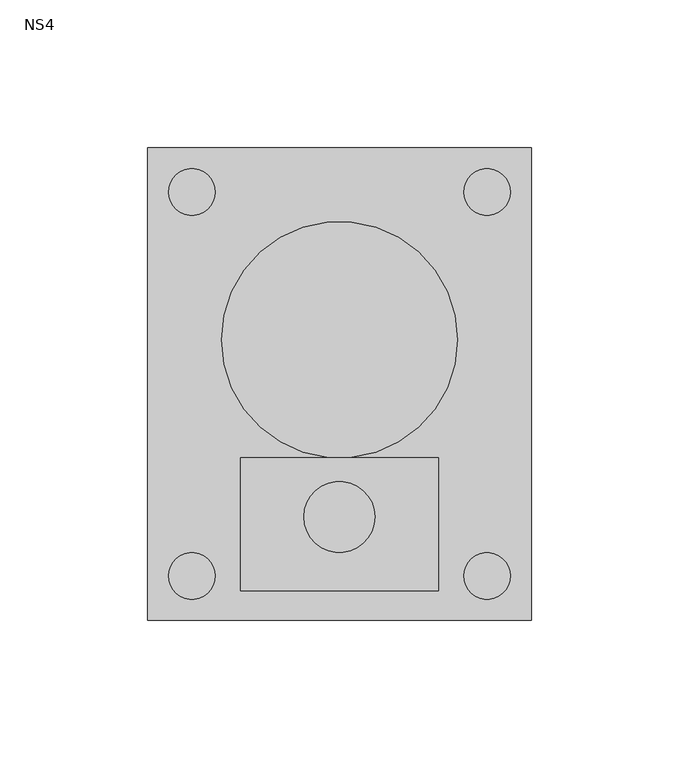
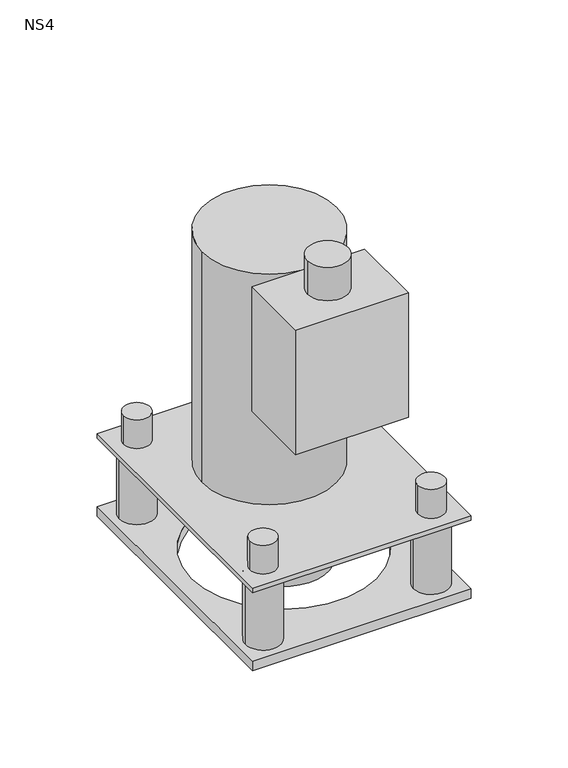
"""IFC4 building model written with IfcOpenShell, lengths in millimetres: unitary equipment geometry, ME_ST_lipator s-rm with agitating device_ACO : NS4."""

import ifcopenshell
import ifcopenshell.guid

model = None  # the IFC model being written
_history = None  # IfcOwnerHistory: only IFC2X3 demands one
_inside = {}  # id of a spatial element -> (the spatial element, [elements in it])
_under = {}  # id of a project, library or spatial element -> (it, [spatial elements below it])
_declared = {}  # id of a project -> (the project, [libraries it declares])
_typed = {}  # id of a type object -> (the type object, [elements of that type])
_made_of = {}  # id of a material, layer set ... -> (it, [elements and type objects made of it])


def new_model(schema):
    """Start an empty IFC model of exactly this schema.

    Asked for "IFC4X3", IfcOpenShell would pick the latest addendum, in which some entities
    have other attributes; the version numbers below select the first issue.
    IFC2X3 requires an IfcOwnerHistory on every rooted entity: one is made here for all.
    """
    global model, _history
    if schema == "IFC4X3":
        model = ifcopenshell.file(schema_version=(4, 3, 0, 0))
    else:
        model = ifcopenshell.file(schema=schema)
    _inside.clear()
    _under.clear()
    _declared.clear()
    _typed.clear()
    _made_of.clear()
    _history = None
    if model.schema == "IFC2X3":
        org = make("IfcOrganization", Name="unknown")
        user = make(
            "IfcPersonAndOrganization",
            ThePerson=make("IfcPerson", FamilyName="unknown"),
            TheOrganization=org,
        )
        app = make(
            "IfcApplication",
            ApplicationDeveloper=org,
            Version="unknown",
            ApplicationFullName="unknown",
            ApplicationIdentifier="unknown",
        )
        _history = make(
            "IfcOwnerHistory",
            OwningUser=user,
            OwningApplication=app,
            ChangeAction="ADDED",
            CreationDate=0,
        )
    return model


def make(cls, **values):
    """One entity of the class cls with the attributes given. An attribute that is None is left unset."""
    return model.create_entity(
        cls, **{name: value for name, value in values.items() if value is not None}
    )


def rooted(cls, **values):
    """An entity with a GlobalId (a new one), such as an element, a storey or a relation."""
    return make(cls, GlobalId=ifcopenshell.guid.new(), OwnerHistory=_history, **values)


def si_unit(unit_type, name, prefix=None):
    """IfcSIUnit, for example si_unit("LENGTHUNIT", "METRE", prefix="MILLI")."""
    return make("IfcSIUnit", UnitType=unit_type, Prefix=prefix, Name=name)


def assignment(units):
    """IfcUnitAssignment: the units of a project."""
    return None if units is None else make("IfcUnitAssignment", Units=units)


def point(xyz):
    """IfcCartesianPoint."""
    return None if xyz is None else make("IfcCartesianPoint", Coordinates=xyz)


def direction(xyz):
    """IfcDirection."""
    return None if xyz is None else make("IfcDirection", DirectionRatios=xyz)


def frame(location, z_axis=None, x_axis=None):
    """IfcAxis2Placement3D, a coordinate frame: its origin and axes. An axis left out is left unset."""
    return make(
        "IfcAxis2Placement3D",
        Location=point(location),
        Axis=direction(z_axis),
        RefDirection=direction(x_axis),
    )


def frame_2d(location, x_axis=None):
    """IfcAxis2Placement2D, a coordinate frame in the plane: its origin and x axis."""
    return make(
        "IfcAxis2Placement2D", Location=point(location), RefDirection=direction(x_axis)
    )


def origin():
    """The frame at (0, 0, 0) with its axes left unset."""
    return frame((0.0, 0.0, 0.0))


def origin_2d():
    """The frame at (0, 0) in the plane with its x axis left unset."""
    return frame_2d((0.0, 0.0))


def place(relative_to, where):
    """IfcLocalPlacement: puts the frame where relative to a parent placement (None: the world)."""
    return make(
        "IfcLocalPlacement", PlacementRelTo=relative_to, RelativePlacement=where
    )


def context(
    kind, dimensions, precision=None, world=None, true_north=None, identifier=None
):
    """IfcGeometricRepresentationContext, for example the 3D "Model" context."""
    return make(
        "IfcGeometricRepresentationContext",
        ContextIdentifier=identifier,
        ContextType=kind,
        CoordinateSpaceDimension=dimensions,
        Precision=precision,
        WorldCoordinateSystem=world,
        TrueNorth=true_north,
    )


def project(units=None, contexts=None):
    """IfcProject with its units and contexts."""
    return rooted(
        "IfcProject",
        Name="project",
        RepresentationContexts=contexts,
        UnitsInContext=assignment(units),
    )


def spatial(cls, under=None, at=None, **own):
    """A site, building, storey or space (cls), placed at a placement, below another one or the project."""
    s = rooted(cls, ObjectPlacement=at, **own)
    if under is not None:
        _under.setdefault(under.id(), (under, []))[1].append(s)
    return s


def polyline(points):
    """IfcPolyline through the points."""
    return make("IfcPolyline", Points=[point(p) for p in points])


def circle_curve(where, radius):
    """IfcCircle in the frame where."""
    return make("IfcCircle", Position=where, Radius=radius)


def trimmed(basis, trim1, trim2, sense, master):
    """IfcTrimmedCurve: the piece of a basis curve between two trims."""
    return make(
        "IfcTrimmedCurve",
        BasisCurve=basis,
        Trim1=trim1,
        Trim2=trim2,
        SenseAgreement=sense,
        MasterRepresentation=master,
    )


def segment(curve, same_sense, transition):
    """IfcCompositeCurveSegment."""
    return make(
        "IfcCompositeCurveSegment",
        Transition=transition,
        SameSense=same_sense,
        ParentCurve=curve,
    )


def composite_curve(segments, self_intersect=None):
    """IfcCompositeCurve: segments joined end to end."""
    return make("IfcCompositeCurve", Segments=segments, SelfIntersect=self_intersect)


def outline(outer, holes=None, kind="AREA"):
    """IfcArbitraryClosedProfileDef: a profile drawn as a closed curve; with holes, ...WithVoids."""
    if holes is None:
        return make("IfcArbitraryClosedProfileDef", ProfileType=kind, OuterCurve=outer)
    return make(
        "IfcArbitraryProfileDefWithVoids",
        ProfileType=kind,
        OuterCurve=outer,
        InnerCurves=holes,
    )


def extrude(swept, where, along, depth):
    """IfcExtrudedAreaSolid: the profile swept, set in the frame where, extruded along a direction by depth."""
    return make(
        "IfcExtrudedAreaSolid",
        SweptArea=swept,
        Position=where,
        ExtrudedDirection=direction(along),
        Depth=depth,
    )


def shape(context_of_items, identifier, shape_type, items):
    """IfcShapeRepresentation: the items that make up one representation, for example the "Body"."""
    return make(
        "IfcShapeRepresentation",
        ContextOfItems=context_of_items,
        RepresentationIdentifier=identifier,
        RepresentationType=shape_type,
        Items=items,
    )


def source(mapping_origin, context_of_items, identifier, shape_type, items):
    """IfcRepresentationMap: a shape defined once, which mapped items show again and again."""
    return make(
        "IfcRepresentationMap",
        MappingOrigin=mapping_origin,
        MappedRepresentation=shape(context_of_items, identifier, shape_type, items),
    )


def transform(
    local_origin,
    x_axis=None,
    y_axis=None,
    z_axis=None,
    scale=None,
    scale2=None,
    scale3=None,
    uniform=True,
):
    """IfcCartesianTransformationOperator3D, or its non-uniform kind. x_axis, y_axis, z_axis: its Axis1, 2, 3."""
    if uniform:
        return make(
            "IfcCartesianTransformationOperator3D",
            Axis1=direction(x_axis),
            Axis2=direction(y_axis),
            LocalOrigin=point(local_origin),
            Scale=scale,
            Axis3=direction(z_axis),
        )
    return make(
        "IfcCartesianTransformationOperator3DnonUniform",
        Axis1=direction(x_axis),
        Axis2=direction(y_axis),
        LocalOrigin=point(local_origin),
        Scale=scale,
        Axis3=direction(z_axis),
        Scale2=scale2,
        Scale3=scale3,
    )


def mapped(mapping_source, mapping_target):
    """IfcMappedItem: shows the shape of a source again, moved by a transform."""
    return make(
        "IfcMappedItem", MappingSource=mapping_source, MappingTarget=mapping_target
    )


def made_of(thing, what):
    """Note that an element or type object is made of a material, layer set ...; save() writes the relation."""
    if what is not None:
        _made_of.setdefault(what.id(), (what, []))[1].append(thing)
    return thing


def element(
    cls,
    number,
    at=None,
    inside=None,
    cuts=None,
    type_object=None,
    material=None,
    context=None,
    identifier="Body",
    shape_type=None,
    held_by="IfcProductDefinitionShape",
    body=None,
    shapes=None,
    **own,
):
    """One element of the class cls, such as IfcWall. Its Tag is "e" and its number.

    at: its placement. inside: the storey or other place that contains it. cuts: it is an
    opening in that element (IfcRelVoidsElement). A single representation is given by context,
    identifier, shape_type and body (its items); several are given by shapes. held_by: the class
    of the entity that holds the representations. save() writes the other relations.
    """
    e = rooted(cls, Tag="e%d" % number, ObjectPlacement=at, **own)
    if body is not None:
        shapes = [shape(context, identifier, shape_type, body)]
    if shapes is not None:
        e.Representation = make(held_by, Representations=shapes)
    if inside is not None:
        _inside.setdefault(inside.id(), (inside, []))[1].append(e)
    if cuts is not None:
        rooted(
            "IfcRelVoidsElement", RelatingBuildingElement=cuts, RelatedOpeningElement=e
        )
    if type_object is not None:
        _typed.setdefault(type_object.id(), (type_object, []))[1].append(e)
    return made_of(e, material)


def aggregate(whole, parts):
    """IfcRelAggregates: a whole, such as a stair, and the parts it consists of."""
    return rooted("IfcRelAggregates", RelatingObject=whole, RelatedObjects=parts)


def save(model, path):
    """Write the relations noted so far, then the file.

    IfcRelAggregates (storeys below a building ...), IfcRelContainedInSpatialStructure (elements
    in a storey), IfcRelDefinesByType, IfcRelAssociatesMaterial and IfcRelDeclares: one each for
    every whole, place, type object, material and project.
    """
    for whole, parts in _under.values():
        aggregate(whole, parts)
    for where, things in _inside.values():
        rooted(
            "IfcRelContainedInSpatialStructure",
            RelatedElements=things,
            RelatingStructure=where,
        )
    for kind, things in _typed.values():
        rooted("IfcRelDefinesByType", RelatedObjects=things, RelatingType=kind)
    for what, things in _made_of.values():
        rooted("IfcRelAssociatesMaterial", RelatedObjects=things, RelatingMaterial=what)
    for by, libraries in _declared.values():
        rooted("IfcRelDeclares", RelatingContext=by, RelatedDefinitions=libraries)
    model.write(path)


def ns4_677a0f8f(model_context):
    return source(origin(), model_context, "Body", "SweptSolid", [
        extrude(outline(composite_curve([segment(trimmed(circle_curve(frame_2d((0.0, -45.0)), 12.0), [point((12.0, -45.0))], [point((-12.0, -45.0))], False, "CARTESIAN"), True, "CONTINUOUS"), segment(trimmed(circle_curve(frame_2d((0.0, -45.0)), 12.0), [point((-12.0, -45.0))], [point((12.0, -45.0))], False, "CARTESIAN"), True, "CONTINUOUS")], self_intersect=False)), frame((0.0, 0.0, 1643.6), z_axis=(0.0, 0.0, 1.0), x_axis=(1.0, 0.0, 0.0)), (0.0, 0.0, 1.0), 20.9589802),
        extrude(outline(polyline([(33.5, -25.0), (33.5, -70.0), (-33.5, -70.0), (-33.5, -25.0), (33.5, -25.0)])), frame((0.0, 0.0, 1565.3), z_axis=(0.0, 0.0, 1.0), x_axis=(1.0, 0.0, 0.0)), (0.0, 0.0, 1.0), 78.3),
        extrude(outline(composite_curve([segment(trimmed(circle_curve(frame_2d((0.0, 15.0)), 40.0), [point((-40.0, 15.0))], [point((40.0, 15.0))], False, "CARTESIAN"), True, "CONTINUOUS"), segment(trimmed(circle_curve(frame_2d((0.0, 15.0)), 40.0), [point((40.0, 15.0))], [point((-40.0, 15.0))], False, "CARTESIAN"), True, "CONTINUOUS")], self_intersect=False)), frame((0.0, 0.0, 1498.6), z_axis=(0.0, 0.0, 1.0), x_axis=(1.0, 0.0, 0.0)), (0.0, 0.0, 1.0), 145.0),
        extrude(outline(composite_curve([segment(trimmed(circle_curve(origin_2d(), 26.0), [point((-26.0, 0.0))], [point((26.0, 0.0))], False, "CARTESIAN"), True, "CONTINUOUS"), segment(trimmed(circle_curve(origin_2d(), 26.0), [point((26.0, 0.0))], [point((-26.0, 0.0))], False, "CARTESIAN"), True, "CONTINUOUS")], self_intersect=False)), frame((0.0, 0.0, 1446.6), z_axis=(0.0, 0.0, 1.0), x_axis=(1.0, 0.0, 0.0)), (0.0, 0.0, 1.0), 49.0),
        extrude(outline(composite_curve([segment(trimmed(circle_curve(frame_2d((-50.0, 65.0)), 7.865), [point((-57.865, 65.0))], [point((-42.135, 65.0))], False, "CARTESIAN"), True, "CONTINUOUS"), segment(trimmed(circle_curve(frame_2d((-50.0, 65.0)), 7.865), [point((-42.135, 65.0))], [point((-57.865, 65.0))], False, "CARTESIAN"), True, "CONTINUOUS")], self_intersect=False)), frame((0.0, 0.0, 1498.6), z_axis=(0.0, 0.0, 1.0), x_axis=(1.0, 0.0, 0.0)), (0.0, 0.0, 1.0), 18.0),
        extrude(outline(composite_curve([segment(trimmed(circle_curve(frame_2d((50.0, 65.0)), 7.865), [point((42.135, 65.0))], [point((57.865, 65.0))], False, "CARTESIAN"), True, "CONTINUOUS"), segment(trimmed(circle_curve(frame_2d((50.0, 65.0)), 7.865), [point((57.865, 65.0))], [point((42.135, 65.0))], False, "CARTESIAN"), True, "CONTINUOUS")], self_intersect=False)), frame((0.0, 0.0, 1498.6), z_axis=(0.0, 0.0, 1.0), x_axis=(1.0, 0.0, 0.0)), (0.0, 0.0, 1.0), 18.0),
        extrude(outline(composite_curve([segment(trimmed(circle_curve(frame_2d((50.0, -65.0)), 7.865), [point((42.135, -65.0))], [point((57.865, -65.0))], False, "CARTESIAN"), True, "CONTINUOUS"), segment(trimmed(circle_curve(frame_2d((50.0, -65.0)), 7.865), [point((57.865, -65.0))], [point((42.135, -65.0))], False, "CARTESIAN"), True, "CONTINUOUS")], self_intersect=False)), frame((0.0, 0.0, 1498.6), z_axis=(0.0, 0.0, 1.0), x_axis=(1.0, 0.0, 0.0)), (0.0, 0.0, 1.0), 18.0),
        extrude(outline(composite_curve([segment(trimmed(circle_curve(frame_2d((-50.0, -65.0)), 7.865), [point((-57.865, -65.0))], [point((-42.135, -65.0))], False, "CARTESIAN"), True, "CONTINUOUS"), segment(trimmed(circle_curve(frame_2d((-50.0, -65.0)), 7.865), [point((-42.135, -65.0))], [point((-57.865, -65.0))], False, "CARTESIAN"), True, "CONTINUOUS")], self_intersect=False)), frame((0.0, 0.0, 1498.6), z_axis=(0.0, 0.0, 1.0), x_axis=(1.0, 0.0, 0.0)), (0.0, 0.0, 1.0), 18.0),
        extrude(outline(composite_curve([segment(trimmed(circle_curve(frame_2d((-50.0, 65.0)), 10.5), [point((-60.5, 65.0))], [point((-39.5, 65.0))], False, "CARTESIAN"), True, "CONTINUOUS"), segment(trimmed(circle_curve(frame_2d((-50.0, 65.0)), 10.5), [point((-39.5, 65.0))], [point((-60.5, 65.0))], False, "CARTESIAN"), True, "CONTINUOUS")], self_intersect=False)), frame((0.0, 0.0, 1452.6), z_axis=(0.0, 0.0, 1.0), x_axis=(1.0, 0.0, 0.0)), (0.0, 0.0, 1.0), 43.0),
        extrude(outline(composite_curve([segment(trimmed(circle_curve(frame_2d((50.0, 65.0)), 10.5), [point((39.5, 65.0))], [point((60.5, 65.0))], False, "CARTESIAN"), True, "CONTINUOUS"), segment(trimmed(circle_curve(frame_2d((50.0, 65.0)), 10.5), [point((60.5, 65.0))], [point((39.5, 65.0))], False, "CARTESIAN"), True, "CONTINUOUS")], self_intersect=False)), frame((0.0, 0.0, 1452.6), z_axis=(0.0, 0.0, 1.0), x_axis=(1.0, 0.0, 0.0)), (0.0, 0.0, 1.0), 43.0),
        extrude(outline(composite_curve([segment(trimmed(circle_curve(frame_2d((-50.0, -65.0)), 10.5), [point((-60.5, -65.0))], [point((-39.5, -65.0))], False, "CARTESIAN"), True, "CONTINUOUS"), segment(trimmed(circle_curve(frame_2d((-50.0, -65.0)), 10.5), [point((-39.5, -65.0))], [point((-60.5, -65.0))], False, "CARTESIAN"), True, "CONTINUOUS")], self_intersect=False)), frame((0.0, 0.0, 1452.6), z_axis=(0.0, 0.0, 1.0), x_axis=(1.0, 0.0, 0.0)), (0.0, 0.0, 1.0), 43.0),
        extrude(outline(composite_curve([segment(trimmed(circle_curve(frame_2d((50.0, -65.0)), 10.5), [point((39.5, -65.0))], [point((60.5, -65.0))], False, "CARTESIAN"), True, "CONTINUOUS"), segment(trimmed(circle_curve(frame_2d((50.0, -65.0)), 10.5), [point((60.5, -65.0))], [point((39.5, -65.0))], False, "CARTESIAN"), True, "CONTINUOUS")], self_intersect=False)), frame((0.0, 0.0, 1452.6), z_axis=(0.0, 0.0, 1.0), x_axis=(1.0, 0.0, 0.0)), (0.0, 0.0, 1.0), 43.0),
        extrude(outline(polyline([(65.0, 80.0), (65.0, -80.0), (-65.0, -80.0), (-65.0, 80.0), (65.0, 80.0)])), frame((0.0, 0.0, 1495.6), z_axis=(0.0, 0.0, 1.0), x_axis=(1.0, 0.0, 0.0)), (0.0, 0.0, 1.0), 3.0),
        extrude(outline(polyline([(65.0, 80.0), (65.0, -80.0), (-65.0, -80.0), (-65.0, 80.0), (65.0, 80.0)]), holes=[composite_curve([segment(trimmed(circle_curve(origin_2d(), 55.0), [point((-55.0, 0.0))], [point((55.0, 0.0))], True, "CARTESIAN"), True, "CONTINUOUS"), segment(trimmed(circle_curve(origin_2d(), 55.0), [point((55.0, 0.0))], [point((-55.0, 0.0))], True, "CARTESIAN"), True, "CONTINUOUS")], self_intersect=False)]), frame((0.0, 0.0, 1446.6), z_axis=(0.0, 0.0, 1.0), x_axis=(1.0, 0.0, 0.0)), (0.0, 0.0, 1.0), 6.0),
    ])


if __name__ == "__main__":
    model = new_model("IFC4")
    model_context = context("Model", 3, world=origin())
    ifc_project = project(units=[si_unit("LENGTHUNIT", "METRE", prefix="MILLI")], contexts=[model_context])
    site = spatial("IfcSite", under=ifc_project)
    building = spatial("IfcBuilding", under=site)
    placement = place(None, origin())
    ns4_shape = ns4_677a0f8f(model_context)
    element("IfcUnitaryEquipment", 1, ObjectType="ME_ST_lipator s-rm with agitating device_ACO : NS4", at=placement, inside=building, context=model_context, shape_type="MappedRepresentation", body=[
        mapped(ns4_shape, transform((0.0, 0.0, 0.0), x_axis=(1.0, 0.0, 0.0), y_axis=(0.0, 1.0, 0.0), z_axis=(0.0, 0.0, 1.0))),
    ])
    save(model, "model.ifc")
